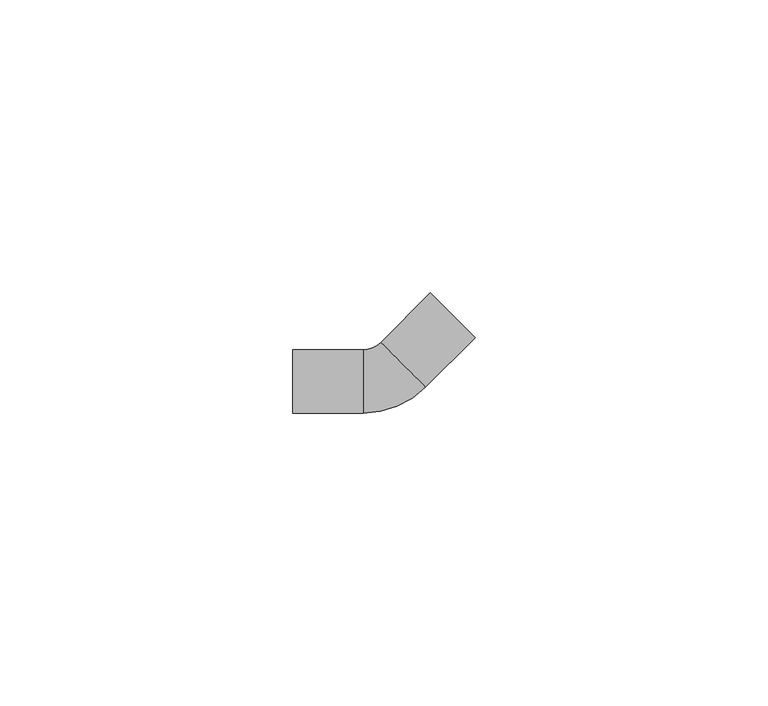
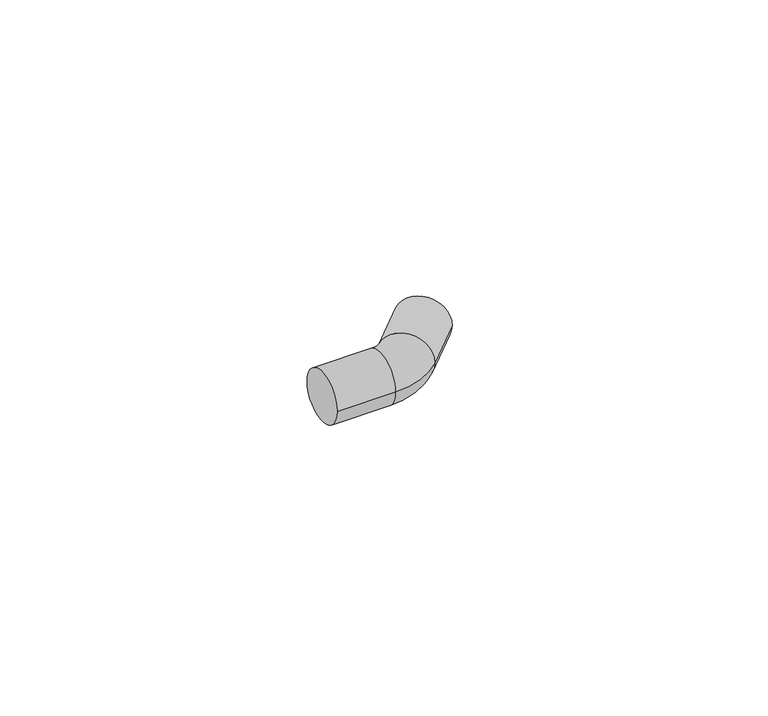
"""IFC4 building model written with IfcOpenShell, lengths in millimetres: pipe fitting geometry, 01051067 : Joelho a 45º."""

from ifc_helpers import new_model, si_unit, point, frame, origin, place, context, project, spatial, circle_curve, ellipse_curve, trimmed, source, transform, mapped, element, save
from ifc_brep_helpers import plane_surface, cylinder_surface, revolved_surface, advanced_brep


def pipe_fitting_320b613a(model_context):
    return source(origin(), model_context, "Body", "AdvancedBrep", [
        advanced_brep(
        [(-16.0, -5.4, 0.0), (-16.0, 5.4, 0.0), (-4.0, -5.4, 0.0), (-4.0, 5.4, 0.0), (-0.9899495, 6.6468037, 0.0), (6.6468037, -0.9899495, 0.0), (15.1320851, 7.4953319, 0.0), (7.4953319, 15.1320851, 0.0)],
        [
            (0, 1, circle_curve(frame((-16.0, 0.0, 0.0), z_axis=(-1.0, 0.0, 0.0), x_axis=(0.0, 1.0, 0.0)), 5.4)),
            (1, 0, circle_curve(frame((-16.0, 0.0, 0.0), z_axis=(-1.0, 0.0, 0.0), x_axis=(0.0, 1.0, 0.0)), 5.4)),
            (0, 2),
            (2, 3, circle_curve(frame((-4.0, 0.0, 0.0), z_axis=(-1.0, 0.0, 0.0), x_axis=(0.0, 1.0, 0.0)), 5.4)),
            (3, 1),
            (3, 2, circle_curve(frame((-4.0, 0.0, 0.0), z_axis=(-1.0, 0.0, 0.0), x_axis=(0.0, 1.0, 0.0)), 5.4)),
            (4, 3, circle_curve(frame((-4.0, 9.6568542, 0.0), z_axis=(0.0, 0.0, -1.0), x_axis=(0.0, -1.0, 0.0)), 4.2568542)),
            (2, 5, circle_curve(frame((-4.0, 9.6568542, 0.0), z_axis=(0.0, 0.0, 1.0), x_axis=(0.0, -1.0, 0.0)), 15.0568542)),
            (5, 4, circle_curve(frame((2.8284271, 2.8284271, 0.0), z_axis=(-0.7071067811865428, -0.7071067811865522, 0.0), x_axis=(-0.7071067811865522, 0.7071067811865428, 0.0)), 5.4)),
            (4, 5, circle_curve(frame((2.8284271, 2.8284271, 0.0), z_axis=(-0.7071067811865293, -0.7071067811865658, 0.0), x_axis=(-0.7071067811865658, 0.7071067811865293, 0.0)), 5.4)),
            (6, 7, circle_curve(frame((11.3137085, 11.3137085, 0.0), z_axis=(0.7071067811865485, 0.7071067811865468, 0.0), x_axis=(-0.7071067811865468, 0.7071067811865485, 0.0)), 5.4)),
            (7, 6, circle_curve(frame((11.3137085, 11.3137085, 0.0), z_axis=(0.7071067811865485, 0.7071067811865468, 0.0), x_axis=(-0.7071067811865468, 0.7071067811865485, 0.0)), 5.4)),
            (5, 6),
            (7, 4),
        ],
        [
            plane_surface(frame((-16.0, 0.0, 0.0), z_axis=(-1.0, 0.0, 0.0), x_axis=(0.0, 0.0, 1.0))),
            cylinder_surface(frame((-16.0, 0.0, 0.0), z_axis=(-1.0, 0.0, 0.0), x_axis=(0.0, 1.0, 0.0)), 5.4),
            revolved_surface(trimmed(ellipse_curve(frame((-4.0, 0.0, 0.0), z_axis=(-1.0, 0.0, 0.0), x_axis=(0.0, 1.0, 0.0)), 5.4, 5.4), [point((-4.0, -5.4, 0.0))], [point((-4.0, 5.4, 0.0))], True, "CARTESIAN"), (-4.0, 9.6568542, 0.0), (0.0, 0.0, 1.0)),
            revolved_surface(trimmed(ellipse_curve(frame((-4.0, 0.0, 0.0), z_axis=(-1.0, 0.0, 0.0), x_axis=(0.0, 1.0, 0.0)), 5.4, 5.4), [point((-4.0, 5.4, 0.0))], [point((-4.0, -5.4, 0.0))], True, "CARTESIAN"), (-4.0, 9.6568542, 0.0), (0.0, 0.0, 1.0)),
            plane_surface(frame((11.3137085, 11.3137085, 0.0), z_axis=(0.7071067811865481, 0.707106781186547, 0.0), x_axis=(0.0, 0.0, 1.0))),
            cylinder_surface(frame((2.8284271, 2.8284271, 0.0), z_axis=(-0.7071067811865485, -0.7071067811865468, 0.0), x_axis=(-0.7071067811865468, 0.7071067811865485, 0.0)), 5.4),
        ],
        [
            (0, [[1, 2]]),
            (1, [[-1, 3, 4, 5]]),
            (1, [[-2, -5, 6, -3]]),
            (2, [[7, -4, 8, 9]]),
            (3, [[-8, -6, -7, 10]]),
            (4, [[11, 12]]),
            (5, [[-9, 13, -12, 14]]),
            (5, [[-10, -14, -11, -13]]),
        ],
    ),
    ])


if __name__ == "__main__":
    model = new_model("IFC4")
    model_context = context("Model", 3, world=origin())
    ifc_project = project(units=[si_unit("LENGTHUNIT", "METRE", prefix="MILLI")], contexts=[model_context])
    site = spatial("IfcSite", under=ifc_project)
    building = spatial("IfcBuilding", under=site)
    placement = place(None, origin())
    pipe_fitting_shape = pipe_fitting_320b613a(model_context)
    element("IfcPipeFitting", 1, ObjectType="01051067 : Joelho a 45º", at=placement, inside=building, context=model_context, shape_type="MappedRepresentation", body=[
        mapped(pipe_fitting_shape, transform((0.0, 0.0, 0.0), x_axis=(1.0, 0.0, 0.0), y_axis=(0.0, 1.0, 0.0), z_axis=(0.0, 0.0, 1.0))),
    ])
    save(model, "model.ifc")
